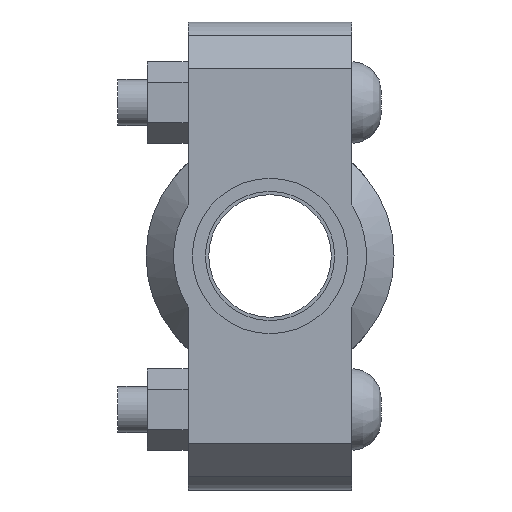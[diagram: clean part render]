
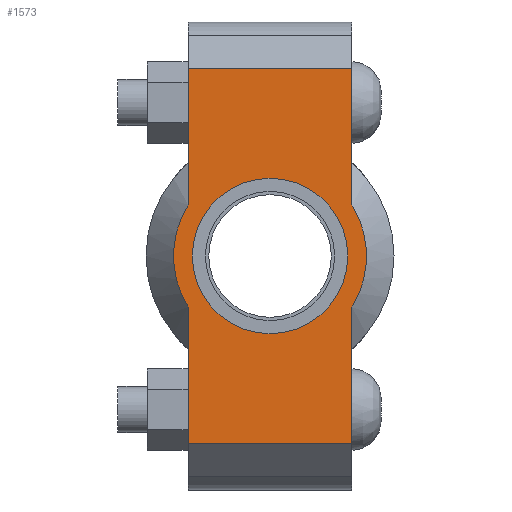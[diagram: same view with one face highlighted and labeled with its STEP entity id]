
A CAD part, left-side view. The second image highlights one B-rep face of the part: STEP entity #1573.
In plain terms, the highlighted planar face has unit normal (-1, 0, 0) as drawn and (0, 0, 1) by its records, which use the part's own axes.
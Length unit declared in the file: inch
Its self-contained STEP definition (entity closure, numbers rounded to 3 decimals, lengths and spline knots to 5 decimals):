
#128=LINE('',#2719,#225);
#143=LINE('',#2778,#240);
#151=LINE('',#2808,#248);
#153=LINE('',#2811,#250);
#154=LINE('',#2816,#251);
#155=LINE('',#2817,#252);
#225=VECTOR('',#2219,0.3937);
#240=VECTOR('',#2254,0.3937);
#248=VECTOR('',#2274,0.3937);
#250=VECTOR('',#2278,0.3937);
#251=VECTOR('',#2283,0.3937);
#252=VECTOR('',#2284,0.3937);
#316=FACE_BOUND('',#493,.T.);
#384=FACE_OUTER_BOUND('',#492,.T.);
#492=EDGE_LOOP('',(#1274,#1275,#1276,#1277,#1278,#1279,#1280,#1281));
#493=EDGE_LOOP('',(#1282));
#575=CIRCLE('',#1801,0.83);
#599=CIRCLE('',#1853,1.031);
#600=CIRCLE('',#1854,1.031);
#671=VERTEX_POINT('',#2545);
#712=VERTEX_POINT('',#2716);
#713=VERTEX_POINT('',#2718);
#734=VERTEX_POINT('',#2773);
#735=VERTEX_POINT('',#2777);
#744=VERTEX_POINT('',#2803);
#745=VERTEX_POINT('',#2807);
#746=VERTEX_POINT('',#2813);
#747=VERTEX_POINT('',#2815);
#835=EDGE_CURVE('',#671,#671,#575,.T.);
#892=EDGE_CURVE('',#713,#712,#128,.T.);
#917=EDGE_CURVE('',#735,#734,#143,.T.);
#930=EDGE_CURVE('',#745,#744,#151,.T.);
#932=EDGE_CURVE('',#745,#712,#153,.T.);
#933=EDGE_CURVE('',#744,#746,#599,.T.);
#934=EDGE_CURVE('',#746,#747,#154,.T.);
#935=EDGE_CURVE('',#735,#747,#155,.T.);
#936=EDGE_CURVE('',#734,#713,#600,.T.);
#1274=ORIENTED_EDGE('',*,*,#932,.F.);
#1275=ORIENTED_EDGE('',*,*,#930,.T.);
#1276=ORIENTED_EDGE('',*,*,#933,.T.);
#1277=ORIENTED_EDGE('',*,*,#934,.T.);
#1278=ORIENTED_EDGE('',*,*,#935,.F.);
#1279=ORIENTED_EDGE('',*,*,#917,.T.);
#1280=ORIENTED_EDGE('',*,*,#936,.T.);
#1281=ORIENTED_EDGE('',*,*,#892,.T.);
#1282=ORIENTED_EDGE('',*,*,#835,.T.);
#1413=PLANE('',#1852);
#1573=ADVANCED_FACE('',(#384,#316),#1413,.T.);
#1801=AXIS2_PLACEMENT_3D('',#2547,#2109,#2110);
#1852=AXIS2_PLACEMENT_3D('',#2812,#2279,#2280);
#1853=AXIS2_PLACEMENT_3D('',#2814,#2281,#2282);
#1854=AXIS2_PLACEMENT_3D('',#2818,#2285,#2286);
#2109=DIRECTION('center_axis',(0.,0.,-1.));
#2110=DIRECTION('ref_axis',(-1.,0.,0.));
#2219=DIRECTION('',(-1.,0.,0.));
#2254=DIRECTION('',(-1.,0.,0.));
#2274=DIRECTION('',(1.,0.,0.));
#2278=DIRECTION('',(0.,1.,0.));
#2279=DIRECTION('center_axis',(0.,0.,1.));
#2280=DIRECTION('ref_axis',(1.,0.,0.));
#2281=DIRECTION('center_axis',(0.,0.,1.));
#2282=DIRECTION('ref_axis',(-1.,0.,0.));
#2283=DIRECTION('',(1.,0.,0.));
#2284=DIRECTION('',(0.,-1.,0.));
#2285=DIRECTION('center_axis',(0.,0.,1.));
#2286=DIRECTION('ref_axis',(-1.,0.,0.));
#2545=CARTESIAN_POINT('',(0.83,0.,0.94));
#2547=CARTESIAN_POINT('Origin',(0.,0.,0.94));
#2716=CARTESIAN_POINT('',(-2.,0.875,0.94));
#2718=CARTESIAN_POINT('',(-0.54529,0.875,0.94));
#2719=CARTESIAN_POINT('',(2.5,0.875,0.94));
#2773=CARTESIAN_POINT('',(0.54529,0.875,0.94));
#2777=CARTESIAN_POINT('',(2.,0.875,0.94));
#2778=CARTESIAN_POINT('',(2.5,0.875,0.94));
#2803=CARTESIAN_POINT('',(-0.54529,-0.875,0.94));
#2807=CARTESIAN_POINT('',(-2.,-0.875,0.94));
#2808=CARTESIAN_POINT('',(-2.5,-0.875,0.94));
#2811=CARTESIAN_POINT('',(-2.,0.4375,0.94));
#2812=CARTESIAN_POINT('Origin',(0.,0.,
0.94));
#2813=CARTESIAN_POINT('',(0.54529,-0.875,0.94));
#2814=CARTESIAN_POINT('Origin',(0.,0.,0.94));
#2815=CARTESIAN_POINT('',(2.,-0.875,0.94));
#2816=CARTESIAN_POINT('',(-2.5,-0.875,0.94));
#2817=CARTESIAN_POINT('',(2.,-0.4375,0.94));
#2818=CARTESIAN_POINT('Origin',(0.,0.,0.94));
